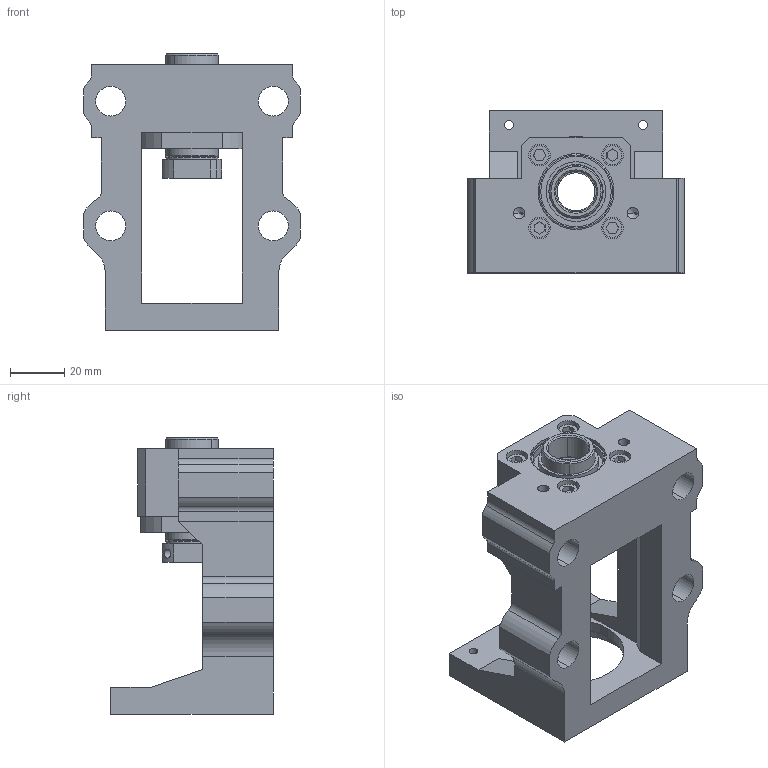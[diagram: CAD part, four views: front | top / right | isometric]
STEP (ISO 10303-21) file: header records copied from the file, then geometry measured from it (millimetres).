
FILE_DESCRIPTION (( 'STEP AP203' ), '1' );
FILE_NAME ('MBCE15-DP.STEP', '2023-01-12T02:16:22', ( '' ), ( '' ), 'SwSTEP 2.0', 'SolidWorks 2018', '' );
FILE_SCHEMA (( 'CONFIG_CONTROL_DESIGN' ));
Length unit declared in the file: millimetre
Products named in the file (12): 7002外圈; MBCE15-DP; 7002保持器; 7002內圈; 7002鋼珠4.7625; 7002; BK系列密封圈_BK15密封圈; M15鎖固螺帽_M15; 螺絲_M4L25; MBC15; MBCE15-DP_網路下載圖; EAFK15
Assembly tree (28 placements, depth 3):
  MBCE15-DP
    MBCE15-DP_網路下載圖
    7002  x2
      7002外圈
      7002保持器
      7002內圈
      7002鋼珠4.7625
    BK系列密封圈_BK15密封圈  x2
    M15鎖固螺帽_M15
    MBC15
    螺絲_M4L25  x4
    EAFK15  x2
Bounding box: 80 x 60 x 102 mm (x, y, z)
Volume: 137210 mm3; surface area: 63566.3 mm2
Topology: 41 solids, 42 shells, 556 faces, 1376 edges, 866 vertices
Faces by surface type: cylinder 236, plane 136, torus 96, sphere 48, cone 40
Entity records: 13858 total; most frequent: CARTESIAN_POINT 3537, DIRECTION 1936, ORIENTED_EDGE 1684, EDGE_CURVE 842, AXIS2_PLACEMENT_3D 779, VERTEX_POINT 530, EDGE_LOOP 442, CIRCLE 400
